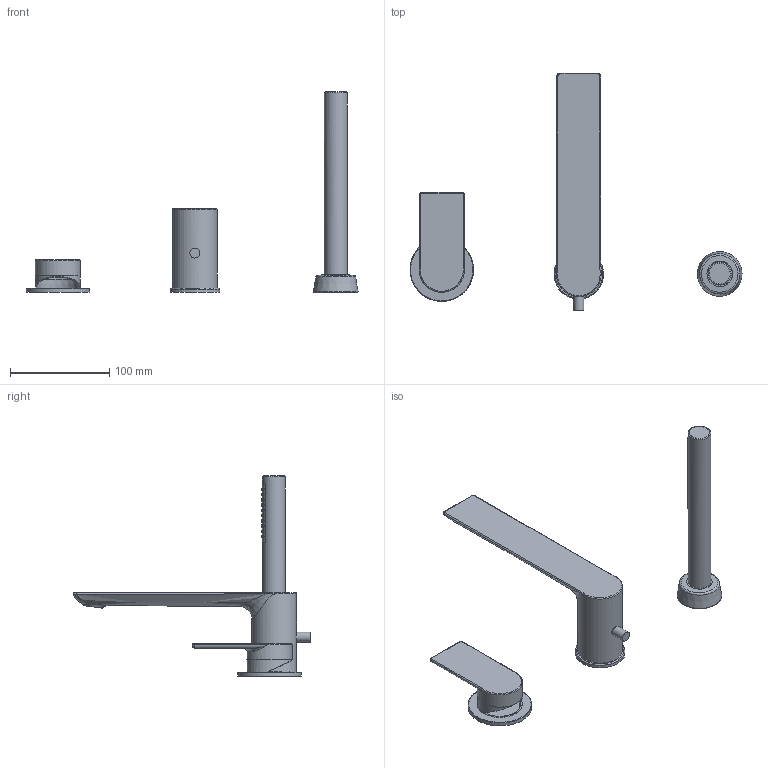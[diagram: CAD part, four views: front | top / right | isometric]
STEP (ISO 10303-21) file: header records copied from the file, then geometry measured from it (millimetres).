
FILE_DESCRIPTION (( 'STEP AP203' ), '1' );
FILE_NAME ('801393 x architetti.STEP', '2023-07-03T12:33:10', ( '' ), ( '' ), 'SwSTEP 2.0', 'SolidWorks 2020', '' );
FILE_SCHEMA (( 'CONFIG_CONTROL_DESIGN' ));
Length unit declared in the file: millimetre
Products named in the file (1): 801393 x architetti
Bounding box: 334.41 x 239.64 x 201.56 mm (x, y, z)
Volume: 358504.1 mm3; surface area: 78535 mm2
Topology: 4 solids, 5 shells, 180 faces, 331 edges, 209 vertices
Faces by surface type: cylinder 108, bspline 34, plane 30, cone 5, torus 3
Full cylindrical faces by diameter (mm): 2.4 x40, 5.2 x1, 8 x1, 9 x1, 10 x1, 21 x1, 23 x1, 25.664 x1, 35.8 x1, 38 x1, 40.376 x1, 42 x1, 42.5 x1, 45 x3, 45.5 x2, 50 x1, 64 x1
Entity records: 9657 total; most frequent: CARTESIAN_POINT 6784, ORIENTED_EDGE 494, DIRECTION 446, EDGE_LOOP 300, EDGE_CURVE 247, FACE_OUTER_BOUND 244, AXIS2_PLACEMENT_3D 211, VERTEX_POINT 197
